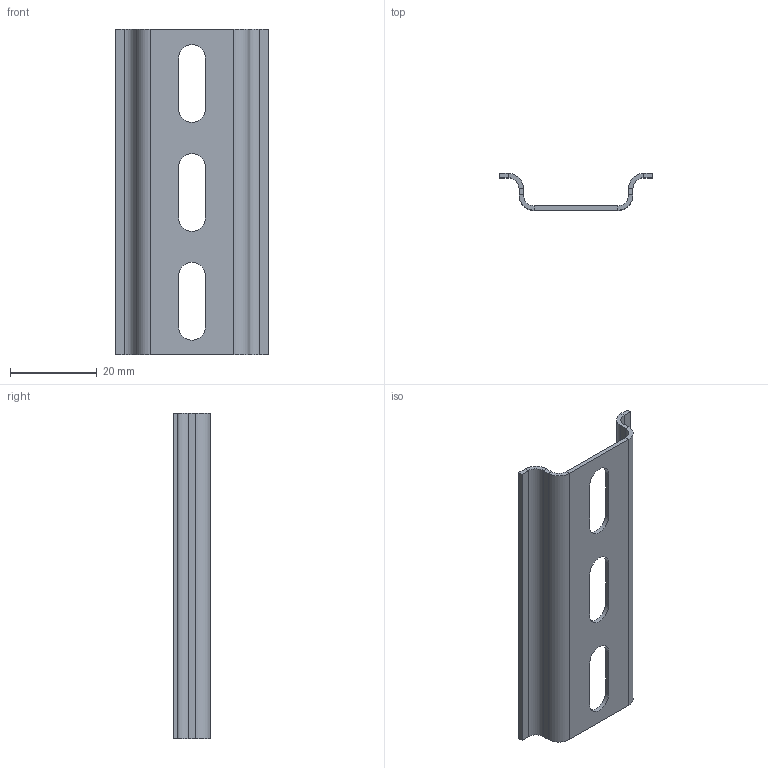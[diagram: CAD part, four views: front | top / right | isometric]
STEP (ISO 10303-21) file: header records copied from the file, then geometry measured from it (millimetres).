
FILE_DESCRIPTION (( 'STEP AP214' ), '1' );
FILE_NAME ('DIN-ðåéêà 75ìì õ 0,1 ìì.STEP', '2025-10-22T11:33:33', ( '' ), ( '' ), 'SwSTEP 2.0', 'SolidWorks 2018', '' );
FILE_SCHEMA (( 'AUTOMOTIVE_DESIGN' ));
Length unit declared in the file: millimetre
Products named in the file (1): DIN-ðåéêà 75ìì õ 0,1 ìì
Bounding box: 35.2 x 8.5 x 75 mm (x, y, z)
Volume: 3072.8 mm3; surface area: 6514.2 mm2
Topology: 1 solids, 1 shells, 53 faces, 121 edges, 70 vertices
Faces by surface type: plane 36, cylinder 17
Entity records: 1499 total; most frequent: DIRECTION 263, CARTESIAN_POINT 245, ORIENTED_EDGE 242, EDGE_CURVE 121, AXIS2_PLACEMENT_3D 88, LINE 87, VECTOR 87, VERTEX_POINT 70
